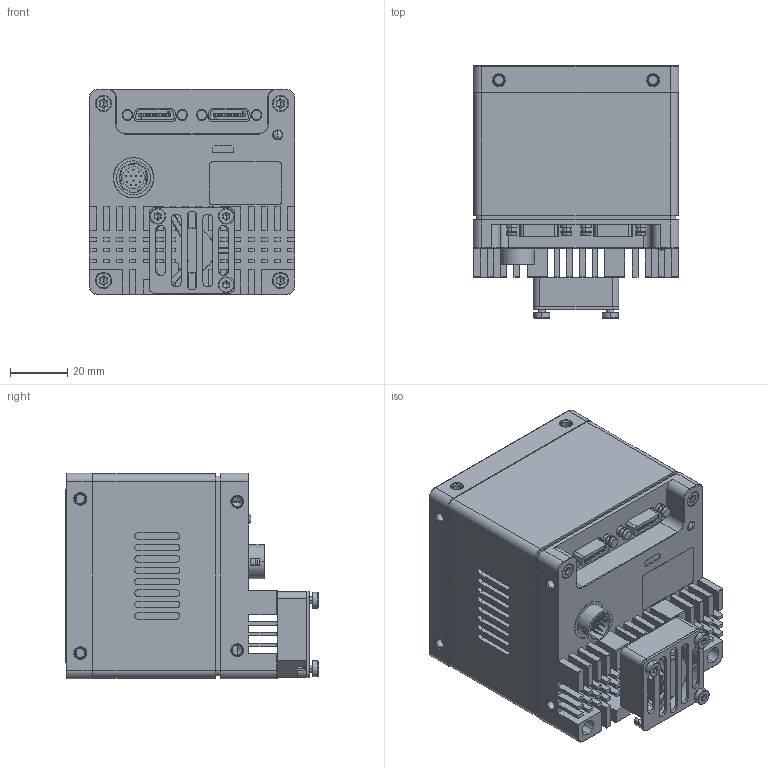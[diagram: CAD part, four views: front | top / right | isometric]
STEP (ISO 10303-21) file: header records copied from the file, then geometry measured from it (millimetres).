
FILE_DESCRIPTION((''),'2;1');
FILE_NAME('0-DH3-2614-0003_ASM_ASM','2024-01-22T17:16:24',('309376'),(''),'CREO PARAMETRIC BY PTC INC, 2020184','CREO PARAMETRIC BY PTC INC, 2020184','');
FILE_SCHEMA(('CONFIG_CONTROL_DESIGN','SHAPE_APPEARANCE_LAYERS_GROUPS'));
Products named in the file (6): DH3-1878-6041_1; DH3-1878-V031_ASM_1_ASM; DH3-1337-1000_1; DH3-2614-V011_ASM_1_ASM; 0-DH3-2614-0003_ASM_1_ASM; 0-DH3-2614-0003_ASM_ASM
Assembly tree (5 placements, depth 4):
  0-DH3-2614-0003_ASM_ASM
    0-DH3-2614-0003_ASM_1_ASM
      DH3-1878-V031_ASM_1_ASM
        DH3-1878-6041_1
      DH3-2614-V011_ASM_1_ASM
        DH3-1337-1000_1
Bounding box: 72 x 88.48 x 72 mm (x, y, z)
Volume: 309436 mm3; surface area: 68420.1 mm2
Topology: 2 solids, 100 shells, 2722 faces, 7394 edges, 4806 vertices
Faces by surface type: plane 1455, cylinder 882, cone 251, bspline 80, torus 50, sphere 4
Entity records: 119361 total; most frequent: CARTESIAN_POINT 24228, DIRECTION 14785, ORIENTED_EDGE 14258, PRESENTATION_STYLE_ASSIGNMENT 7771, STYLED_ITEM 7347, CURVE_STYLE 7283, EDGE_CURVE 7283, AXIS2_PLACEMENT_3D 5264
